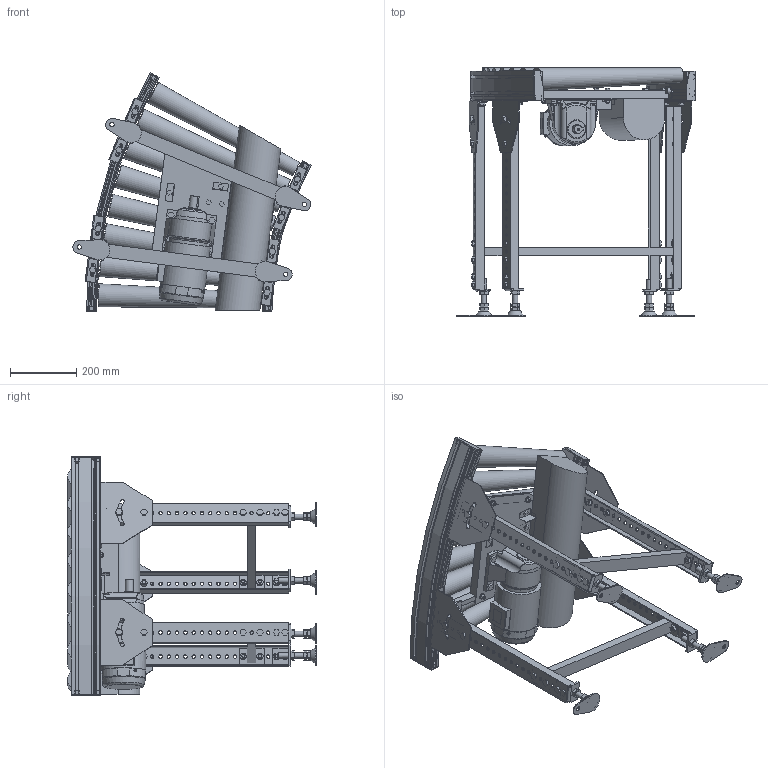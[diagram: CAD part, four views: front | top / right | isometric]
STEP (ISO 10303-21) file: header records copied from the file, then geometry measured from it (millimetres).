
FILE_DESCRIPTION( (''), '2;1');
FILE_NAME ('WEB-MCD1-50-500-75-30°-C9.stp','2026-06-19T11:00:55',(''),(''),'spGate 21.9.5 (****-****-****-****)','','');
FILE_SCHEMA (('AUTOMOTIVE_DESIGN'));
Length unit declared in the file: millimetre
Products named in the file (29): WEB-MCD1-50-500-75-30_-C9; TEMP_X_T-prt0; TEMP_X_T-prt1; TEMP_X_T-prt2; TEMP_X_T-prt3; TEMP_X_T-prt4; TEMP_X_T-prt5; TEMP_X_T-prt6; TEMP_X_T-prt7; TEMP_X_T-prt8; TEMP_X_T-prt9; TEMP_X_T-prt10; TEMP_X_T-prt11; TEMP_X_T-prt12; TEMP_X_T-prt13; TEMP_X_T-prt14; TEMP_X_T-prt15; TEMP_X_T-prt16; TEMP_X_T-prt17; TEMP_X_T-prt18; TEMP_X_T-prt19; TEMP_X_T-prt20; TEMP_X_T-prt21; TEMP_X_T-prt22; TEMP_X_T-prt23; TEMP_X_T-prt24; TEMP_X_T-prt25; TEMP_X_T-prt26; TEMP_X_T-prt27
Assembly tree (28 placements, depth 2):
  WEB-MCD1-50-500-75-30_-C9
    TEMP_X_T-prt0
    TEMP_X_T-prt1
    TEMP_X_T-prt2
    TEMP_X_T-prt3
    TEMP_X_T-prt4
    TEMP_X_T-prt5
    TEMP_X_T-prt6
    TEMP_X_T-prt7
    TEMP_X_T-prt8
    TEMP_X_T-prt9
    TEMP_X_T-prt10
    TEMP_X_T-prt11
    TEMP_X_T-prt12
    TEMP_X_T-prt13
    TEMP_X_T-prt14
    TEMP_X_T-prt15
    TEMP_X_T-prt16
    TEMP_X_T-prt17
    TEMP_X_T-prt18
    TEMP_X_T-prt19
    TEMP_X_T-prt20
    TEMP_X_T-prt21
    TEMP_X_T-prt22
    TEMP_X_T-prt23
    TEMP_X_T-prt24
    TEMP_X_T-prt25
    TEMP_X_T-prt26
    TEMP_X_T-prt27
Bounding box: 719.01 x 750 x 720.6 mm (x, y, z)
Volume: 29404314.5 mm3; surface area: 3052020.4 mm2
Topology: 28 solids, 49 shells, 2197 faces, 5442 edges, 3540 vertices
Faces by surface type: plane 1787, cylinder 379, bspline 31
Full cylindrical faces by diameter (mm): 6 x1, 8 x16, 10 x32, 10.5 x84, 11 x4, 12 x17, 12.2 x2, 12.5 x2, 13 x4, 15.4 x8, 16 x18, 17 x8, 18.4 x28, 18.5 x8, 21 x8, 24 x1, 28 x1, 56 x1, 113.2 x1, 125 x1, 135.411 x1
Entity records: 111581 total; most frequent: CARTESIAN_POINT 13062, DIRECTION 11150, ORIENTED_EDGE 10882, COLOUR_RGB 7666, PRESENTATION_STYLE_ASSIGNMENT 7666, STYLED_ITEM 7666, EDGE_CURVE 5441, DRAUGHTING_PRE_DEFINED_CURVE_FONT 5441
